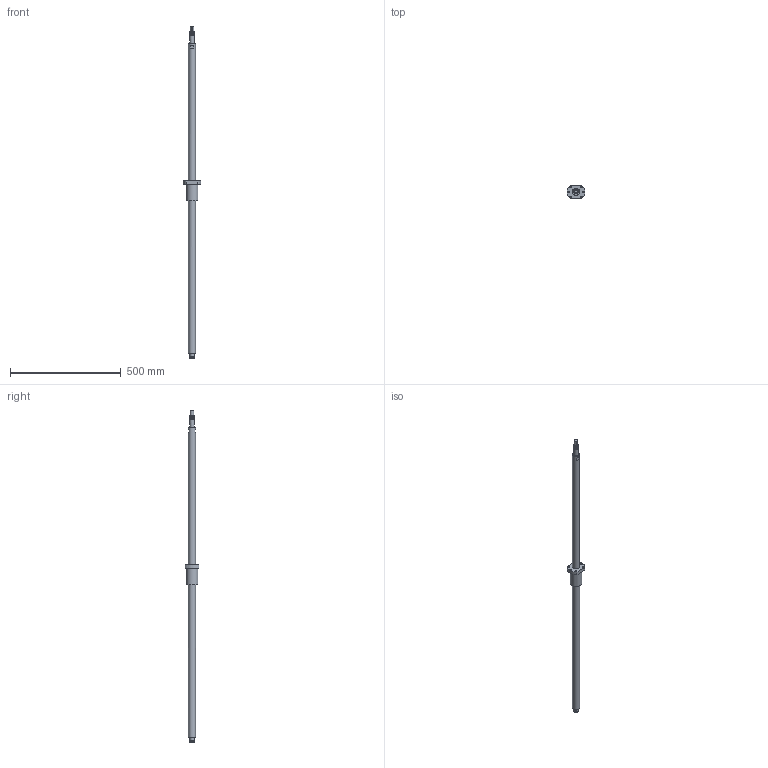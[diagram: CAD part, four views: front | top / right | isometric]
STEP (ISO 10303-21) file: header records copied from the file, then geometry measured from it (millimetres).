
FILE_DESCRIPTION(/* description */ (''),/* implementation_level */ '2;1');
FILE_NAME(/* name */ 'BSG437_asm1.stp',/* time_stamp */ '2017-01-12T15:53:20+08:00',/* author */ (''),/* organization */ (''),/* preprocessor_version */ 'ST-DEVELOPER v15',/* originating_system */ 'SIEMENS PLM Software NX 8.5',/* authorisation */ '');
FILE_SCHEMA (('AUTOMOTIVE_DESIGN { 1 0 10303 214 3 1 1 1 }'));
Length unit declared in the file: millimetre
Products named in the file (3): 01; BSG437; BSG437_asm1
Assembly tree (2 placements, depth 2):
  BSG437_asm1
    BSG437
    01
Bounding box: 79.74 x 62 x 1500 mm (x, y, z)
Volume: 1308332.4 mm3; surface area: 183410.7 mm2
Topology: 2 solids, 2 shells, 51 faces, 123 edges, 84 vertices
Faces by surface type: cylinder 24, plane 23, bspline 2, cone 2
Full cylindrical faces by diameter (mm): 9 x6, 17 x1, 19 x1, 20 x8, 32 x2, 53 x1
Entity records: 2679 total; most frequent: CARTESIAN_POINT 1653, DIRECTION 202, ORIENTED_EDGE 162, AXIS2_PLACEMENT_3D 87, EDGE_LOOP 82, EDGE_CURVE 81, VERTEX_POINT 63, FACE_BOUND 60
